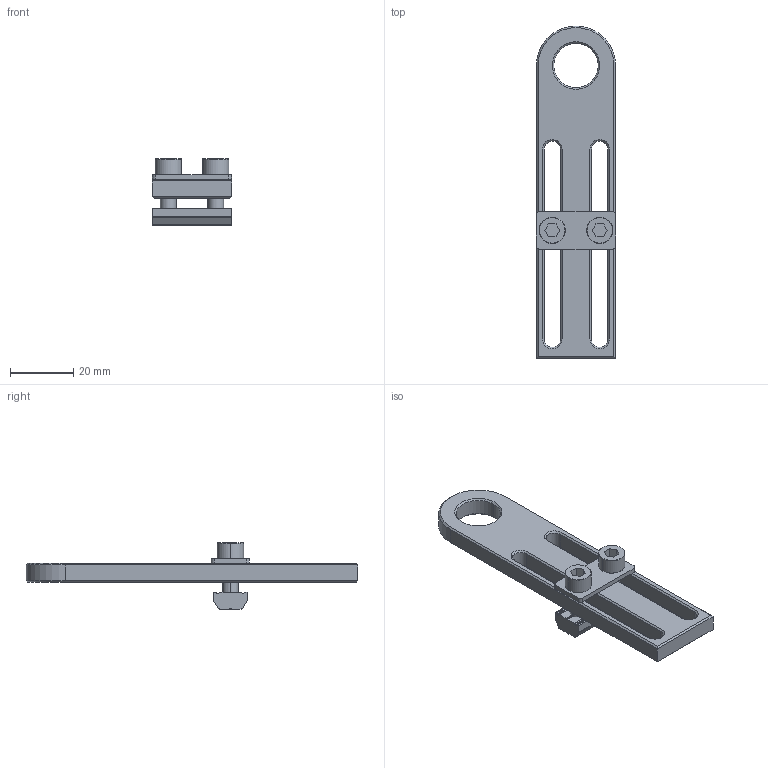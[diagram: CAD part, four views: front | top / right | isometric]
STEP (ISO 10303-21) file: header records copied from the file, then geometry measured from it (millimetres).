
FILE_DESCRIPTION (( 'STEP AP214' ), '1' );
FILE_NAME ('SMBE5-1416T.STEP', '2023-01-09T06:45:14', ( 'Windows User' ), ( 'P R C' ), 'SwSTEP 2.0', 'SolidWorks 2018', '' );
FILE_SCHEMA (( 'AUTOMOTIVE_DESIGN' ));
Length unit declared in the file: millimetre
Products named in the file (5): PTD-M5P15; SMBE5-1416T; SMBE5-M1460; PTN-M5P15; PTC-M5L16
Assembly tree (5 placements, depth 2):
  SMBE5-1416T
    SMBE5-M1460
    PTC-M5L16  x2
    PTD-M5P15
    PTN-M5P15
Bounding box: 25 x 105 x 21 mm (x, y, z)
Volume: 12857.9 mm3; surface area: 9243.7 mm2
Topology: 5 solids, 5 shells, 159 faces, 407 edges, 258 vertices
Faces by surface type: plane 77, cylinder 56, cone 26
Entity records: 4557 total; most frequent: CARTESIAN_POINT 888, ORIENTED_EDGE 730, DIRECTION 711, EDGE_CURVE 365, AXIS2_PLACEMENT_3D 247, VERTEX_POINT 232, VECTOR 217, LINE 217
